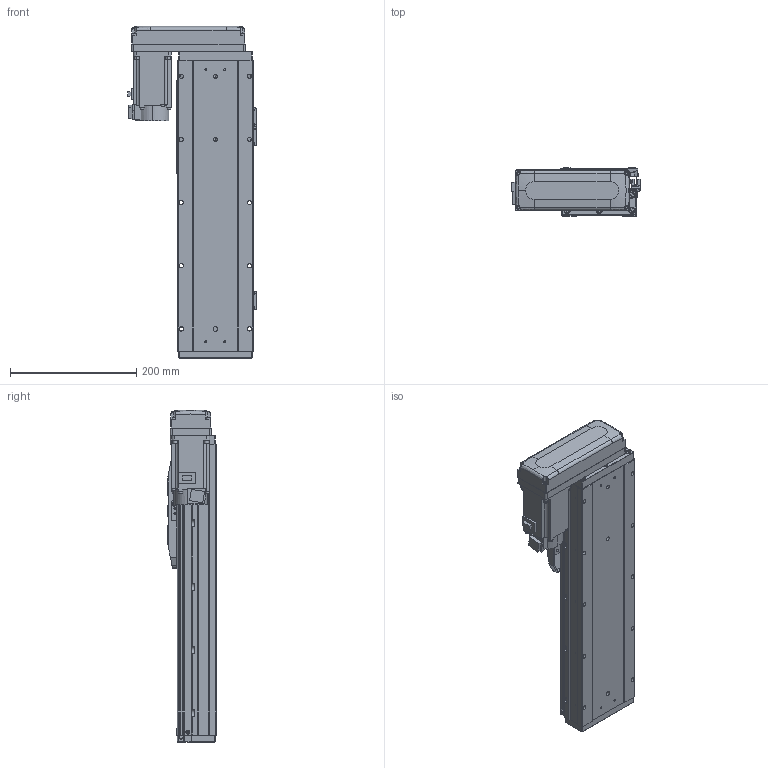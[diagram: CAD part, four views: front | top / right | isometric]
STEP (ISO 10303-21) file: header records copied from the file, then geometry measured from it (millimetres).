
FILE_DESCRIPTION (( 'STEP AP203' ), '1' );
FILE_NAME ('GTH12-250-BR-M40-C4.step', '2023-07-05T00:05:29', ( '微软用户' ), ( '微软中国' ), 'SwSTEP 2.0', 'SolidWorks 2020', '' );
FILE_SCHEMA (( 'CONFIG_CONTROL_DESIGN' ));
Length unit declared in the file: millimetre
Products named in the file (18): GTH120-004; GTH120-027-1_GTH120-027-2; GTH50-023; GTH120-013; GTH12-250-BR-M40-C4; GTH50-024; GBT 70.1-M3℅6; GBT96.1-2002 3×0.8; GBT 70.1-M5×16; GTH120-001_250; BTH-M3X5X6; GBT 70.3-M3℅8; GTH120-003; hg-kn43j_-s100_; GTH80-022; GTH120-006; CTHA86-033_M40B; GTH80-028
Assembly tree (59 placements, depth 2):
  GTH12-250-BR-M40-C4
    GTH120-001_250
    GTH120-003
    GTH120-006
    GTH120-004
    GTH120-013
    GBT 70.1-M3℅6  x14
    GBT 70.1-M5×16  x10
    GBT 70.3-M3℅8  x4
    GTH80-022
    GTH80-028  x2
    GTH50-023  x3
    GTH50-024  x3
    GBT96.1-2002 3×0.8  x6
    BTH-M3X5X6  x8
    hg-kn43j_-s100_
    CTHA86-033_M40B
    GTH120-027-1_GTH120-027-2
Bounding box: 203.5 x 76 x 525.5 mm (x, y, z)
Volume: 4280504.1 mm3; surface area: 467677 mm2
Topology: 61 solids, 61 shells, 2359 faces, 5472 edges, 3355 vertices
Faces by surface type: plane 1230, cylinder 665, cone 276, torus 174, sphere 8, bspline 6
Entity records: 42946 total; most frequent: CARTESIAN_POINT 7272, DIRECTION 7068, ORIENTED_EDGE 6554, EDGE_CURVE 3277, AXIS2_PLACEMENT_3D 2472, VECTOR 2124, LINE 2124, VERTEX_POINT 2076
